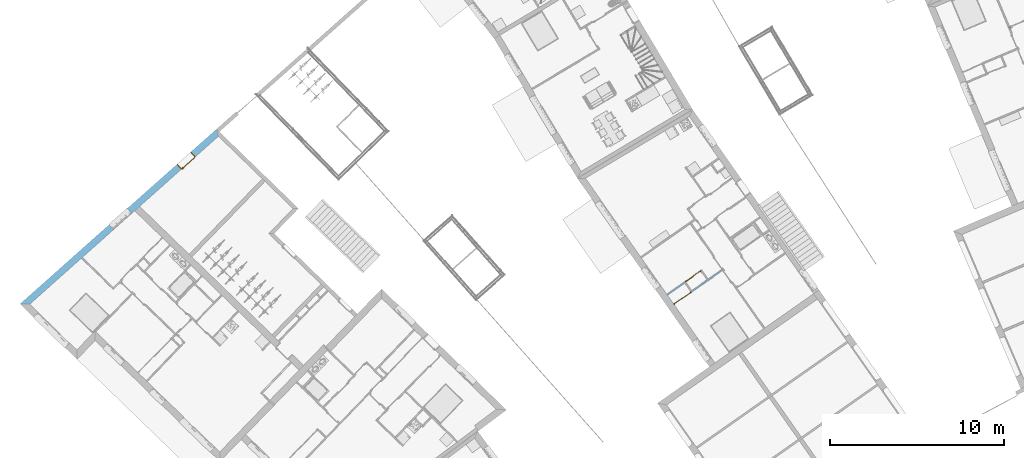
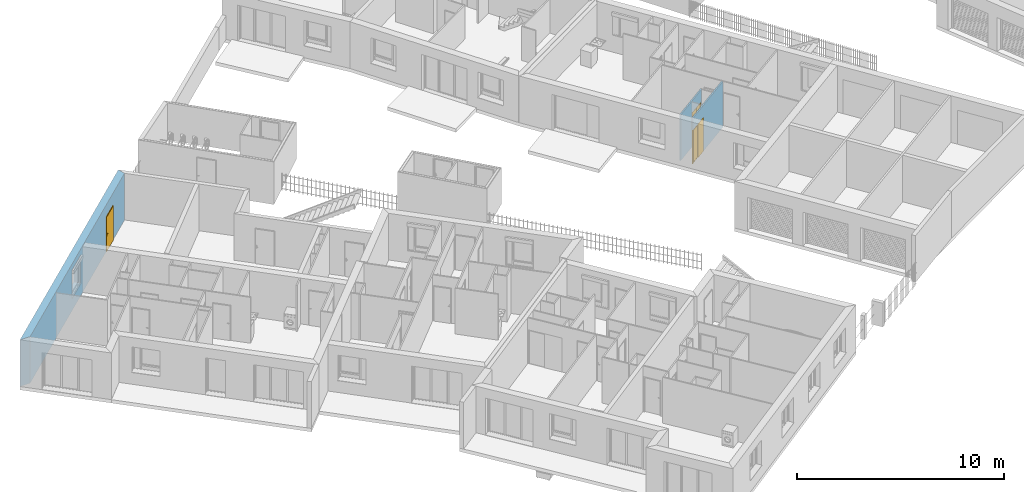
# One storey, part 109 of 195: 3 doors, 4 openings, plus 3 elements that do not belong to this part.
"""IFC2X3 building model written with IfcOpenShell, lengths in metres."""

from ifc_helpers import new_model, entity, si_unit, converted_unit, derived_unit, money_unit, direction, frame, origin_with_axes, origin_2d_with_axis, place, context, subcontext, project, spatial, polyline, rectangle, outline, extrude, open_shell, faceted_brep, surface_model, material, layer, layer_set, layer_usage, type_object, element, fill, save


model = new_model("IFC2X3")

# Units and contexts
model_context = context("Model", 3, precision=1e-05, world=origin_with_axes(), true_north=direction((0.0, 1.0)))
body_context = subcontext(model_context, "Body", "Model", "MODEL_VIEW")
ifc_project = project(units=[si_unit("LENGTHUNIT", "METRE"), si_unit("AREAUNIT", "SQUARE_METRE"), si_unit("VOLUMEUNIT", "CUBIC_METRE"), converted_unit("PLANEANGLEUNIT", "DEGREE", entity("IfcPlaneAngleMeasure", 0.0174532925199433), si_unit("PLANEANGLEUNIT", "RADIAN"), dimensions=[0, 0, 0, 0, 0, 0, 0]), money_unit("CHF"), converted_unit("TIMEUNIT", "Year", entity("IfcTimeMeasure", 31557600.0), si_unit("TIMEUNIT", "SECOND"), dimensions=[0, 0, 1, 0, 0, 0, 0]), si_unit("MASSUNIT", "GRAM", prefix="KILO"), si_unit("THERMODYNAMICTEMPERATUREUNIT", "DEGREE_CELSIUS"), si_unit("LUMINOUSINTENSITYUNIT", "LUMEN"), si_unit("ENERGYUNIT", "JOULE", prefix="MEGA"), derived_unit("THERMALCONDUCTANCEUNIT", [(si_unit("POWERUNIT", "WATT"), 1), (si_unit("LENGTHUNIT", "METRE"), -1), (si_unit("THERMODYNAMICTEMPERATUREUNIT", "KELVIN"), -1)]), derived_unit("SPECIFICHEATCAPACITYUNIT", [(si_unit("ENERGYUNIT", "JOULE"), 1), (si_unit("MASSUNIT", "GRAM", prefix="KILO"), -1), (si_unit("THERMODYNAMICTEMPERATUREUNIT", "KELVIN"), -1)]), derived_unit("MASSDENSITYUNIT", [(si_unit("MASSUNIT", "GRAM", prefix="KILO"), 1), (si_unit("VOLUMEUNIT", "CUBIC_METRE"), -1)])], contexts=[model_context])

# Site, building, storey
site_placement = place(None, origin_with_axes())
site = spatial("IfcSite", under=ifc_project, at=site_placement, Name="Site", CompositionType="ELEMENT")
building_placement = place(site_placement, origin_with_axes())
building = spatial("IfcBuilding", under=site, at=building_placement, Name="Bâtiment", CompositionType="ELEMENT")
storey_placement = place(building_placement, origin_with_axes())
storey = spatial("IfcBuildingStorey", under=building, at=storey_placement, Name="rdc", CompositionType="ELEMENT", Elevation=0.0)

# Wall, opening, door
ifc_material_1 = material(Name="Hachure solide 268963992")
ifc_layer_1 = layer(ifc_material_1, 0.07, ventilated="UNKNOWN")
ifc_layer_set_1 = layer_set([ifc_layer_1], Name="Cloison 70 0826278243")
ifc_layer_usage_1 = layer_usage(ifc_layer_set_1, "AXIS2", "POSITIVE", 0.0)
wall_type_1 = type_object("IfcWallType", Name="Cloison 70 0826278243 70", PredefinedType="NOTDEFINED")
wall_1_placement = place(storey_placement, frame((9550.281326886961, -1060.504089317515, 57.7), z_axis=(0.0, 0.0, 1.0), x_axis=(-0.8187432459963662, -0.5741598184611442, 0.0)))
wall_1 = element("IfcWallStandardCase", 1, at=wall_1_placement, inside=storey, type_object=wall_type_1, material=ifc_layer_usage_1, Name="Mur-149", context=body_context, shape_type="SweptSolid", body=[
    extrude(outline(polyline([(-0.06999999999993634, 0.0), (2.366839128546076, 0.0), (2.366839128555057, 0.07000000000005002), (0.0, 0.07000000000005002), (-0.06999999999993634, 0.0)])), origin_with_axes(), (0.0, 0.0, 1.0), 2.7),
])
opening_1_placement = place(wall_1_placement, frame((0.5401857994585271, 0.0, 0.0), z_axis=(0.0, 0.0, 1.0), x_axis=(1.0, 0.0, 0.0)))
opening_1 = element("IfcOpeningElement", 2, at=opening_1_placement, cuts=wall_1, Name="Por-346", context=body_context, shape_type="SweptSolid", body=[
    extrude(rectangle(XDim=1.080371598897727, YDim=2.0, at=origin_2d_with_axis()), frame((0.0, 0.0, 1.0), z_axis=(0.0, 1.0, 0.0), x_axis=(1.0, 0.0, 0.0)), (0.0, 0.0, -1.0), 0.07),
    extrude(rectangle(XDim=1.080371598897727, YDim=2.0, at=origin_2d_with_axis()), frame((0.0, 0.0, 1.0), z_axis=(0.0, -1.0, 0.0), x_axis=(1.0, 0.0, 0.0)), (0.0, 0.0, -1.0), 0.07),
])
door_style_1 = type_object("IfcDoorStyle", ConstructionType="NOTDEFINED", OperationType="NOTDEFINED", ParameterTakesPrecedence=False, Sizeable=False)
door_1_placement = place(opening_1_placement, frame((0.5401857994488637, 0.0, 0.0), z_axis=(0.0, 0.0, 1.0), x_axis=(-1.0, 0.0, 0.0)))
door_1 = element("IfcDoor", 3, at=door_1_placement, inside=storey, type_object=door_style_1, Name="Por-346", OverallHeight=2.0, OverallWidth=1.08037, context=body_context, shape_type="SurfaceModel", body=[
    faceted_brep([(1.080371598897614, 0.0, 0.0), (1.04037159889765, 0.0, 0.0), (1.04037159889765, 0.0, 1.960000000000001), (0.03999999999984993, 0.0, 1.960000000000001), (0.03999999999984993, 0.0, 0.0), (0.0, 0.0, 0.0), (0.0, 0.0, 2.0), (1.080371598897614, 0.0, 2.0), (1.080371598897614, -0.05000000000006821, 0.0), (1.040371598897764, -0.05000000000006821, 0.0), (1.04037159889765, -0.04000000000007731, 0.0), (1.04037159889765, -0.04000000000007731, 1.960000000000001), (0.03999999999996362, -0.03999999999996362, 1.960000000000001), (0.03999999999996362, -0.03999999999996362, 0.0), (0.03999999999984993, -0.04999999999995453, 0.0), (0.0, -0.05000000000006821, 0.0), (0.0, -0.05000000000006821, 2.0), (1.080371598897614, -0.05000000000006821, 2.0), (0.03999999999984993, -0.04999999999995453, 1.960000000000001), (1.040371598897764, -0.05000000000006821, 1.960000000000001)], [[[0, 1, 2, 3, 4, 5, 6, 7]], [[0, 8, 9, 10, 1]], [[1, 10, 11, 2]], [[2, 11, 12, 3]], [[3, 12, 13, 4]], [[5, 4, 13, 14, 15]], [[16, 6, 5, 15]], [[17, 7, 6, 16]], [[8, 0, 7, 17]], [[9, 8, 17, 16, 15, 14, 18, 19]], [[10, 9, 19, 11]], [[11, 19, 18, 12]], [[12, 18, 14, 13]]]),
    faceted_brep([(0.03999999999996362, -0.01999999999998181, 0.0), (0.5551857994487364, -0.01999999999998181, 0.0), (0.5551857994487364, -0.03999999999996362, 0.0), (0.03999999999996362, -0.03999999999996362, 0.0), (0.03999999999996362, -0.01999999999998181, 1.960000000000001), (0.5551857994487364, -0.01999999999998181, 1.960000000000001), (0.06999999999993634, -0.0200000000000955, 0.03000000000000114), (0.5251857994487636, -0.0200000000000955, 0.03000000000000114), (0.5251857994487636, -0.0200000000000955, 1.93), (0.06999999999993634, -0.0200000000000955, 1.93), (0.5551857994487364, -0.03999999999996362, 1.960000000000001), (0.03999999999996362, -0.03999999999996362, 1.960000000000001), (0.07000000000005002, -0.04000000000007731, 0.03000000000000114), (0.07000000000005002, -0.04000000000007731, 1.93), (0.5251857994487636, -0.04000000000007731, 1.93), (0.5251857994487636, -0.04000000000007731, 0.03000000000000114)], [[[0, 1, 2, 3]], [[0, 4, 5, 1], [6, 7, 8, 9]], [[1, 5, 10, 2]], [[3, 2, 10, 11], [12, 13, 14, 15]], [[4, 0, 3, 11]], [[5, 4, 11, 10]], [[7, 6, 12, 15]], [[8, 7, 15, 14]], [[9, 8, 14, 13]], [[6, 9, 13, 12]]]),
    surface_model("IfcShellBasedSurfaceModel", [(0.06999999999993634, -0.0300000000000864, 0.03000000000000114), (0.5251857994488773, -0.0300000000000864, 0.03000000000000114), (0.5251857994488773, -0.0300000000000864, 1.93), (0.06999999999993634, -0.0300000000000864, 1.93)], [open_shell([[[0, 1, 2, 3]]])]),
    faceted_brep([(0.5251857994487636, 0.0, 0.0), (1.04037159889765, 0.0, 0.0), (1.04037159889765, -0.0200000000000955, 0.0), (0.5251857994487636, -0.0200000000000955, 0.0), (0.5251857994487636, 0.0, 1.960000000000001), (1.04037159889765, 0.0, 1.960000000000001), (1.04037159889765, -0.0200000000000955, 1.960000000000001), (0.5251857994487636, -0.0200000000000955, 1.960000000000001)], [[[0, 1, 2, 3]], [[0, 4, 5, 1]], [[1, 5, 6, 2]], [[3, 2, 6, 7]], [[4, 0, 3, 7]], [[5, 4, 7, 6]]]),
])
fill(opening_1, door_1)

ifc_layer_usage_2 = layer_usage(ifc_layer_set_1, "AXIS2", "POSITIVE", 0.0)
wall_2_placement = place(storey_placement, frame((9551.575044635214, -1060.390735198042, 57.7), z_axis=(0.0, 0.0, 1.0), x_axis=(-0.8187432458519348, -0.574159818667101, 0.0)))
wall_2 = element("IfcWallStandardCase", 4, at=wall_2_placement, inside=storey, type_object=wall_type_1, material=ifc_layer_usage_2, Name="Mur-149", context=body_context, shape_type="SweptSolid", body=[
    extrude(outline(polyline([(0.06999999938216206, 0.0), (3.491145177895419, 0.0), (3.491145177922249, 0.07000000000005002), (0.06999999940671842, 0.07000000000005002), (0.06999999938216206, 0.0)])), origin_with_axes(), (0.0, 0.0, 1.0), 2.7),
])
opening_2_placement = place(wall_2_placement, frame((2.882911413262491, 0.0, 0.0), z_axis=(0.0, 0.0, 1.0), x_axis=(1.0, 0.0, 0.0)))
opening_2 = element("IfcOpeningElement", 5, at=opening_2_placement, cuts=wall_2, Name="Por-345", context=body_context, shape_type="SweptSolid", body=[
    extrude(rectangle(XDim=1.216467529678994, YDim=2.0, at=origin_2d_with_axis()), frame((0.0, 0.06999999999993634, 1.0), z_axis=(0.0, -1.0, 0.0), x_axis=(1.0, 0.0, 0.0)), (0.0, 0.0, -1.0), 0.07),
    extrude(rectangle(XDim=1.216467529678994, YDim=2.0, at=origin_2d_with_axis()), frame((0.0, 0.06999999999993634, 1.0), z_axis=(0.0, 1.0, 0.0), x_axis=(1.0, 0.0, 0.0)), (0.0, 0.0, -1.0), 0.07),
])
door_2_placement = place(opening_2_placement, frame((-0.6082337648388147, 0.0, 0.0), z_axis=(0.0, 0.0, 1.0), x_axis=(1.0, 0.0, 0.0)))
door_2 = element("IfcDoor", 6, at=door_2_placement, inside=storey, type_object=door_style_1, Name="Por-345", OverallHeight=2.0, OverallWidth=1.21647, context=body_context, shape_type="SurfaceModel", body=[
    faceted_brep([(0.0, 0.07000000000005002, 0.0), (0.0, 0.07000000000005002, 2.0), (1.21646752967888, 0.07000000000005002, 2.0), (1.21646752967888, 0.07000000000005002, 0.0), (1.176467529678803, 0.07000000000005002, 0.0), (1.176467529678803, 0.07000000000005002, 1.960000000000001), (0.03999999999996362, 0.07000000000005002, 1.960000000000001), (0.03999999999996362, 0.07000000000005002, 0.0), (0.0, 0.0200000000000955, 0.0), (0.0, 0.0200000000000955, 2.0), (1.21646752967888, 0.01999999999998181, 2.0), (1.21646752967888, 0.01999999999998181, 0.0), (1.176467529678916, 0.0200000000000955, 0.0), (1.176467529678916, 0.02999999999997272, 0.0), (1.176467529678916, 0.02999999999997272, 1.960000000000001), (0.03999999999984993, 0.0300000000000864, 1.960000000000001), (0.03999999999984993, 0.0300000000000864, 0.0), (0.03999999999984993, 0.0200000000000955, 0.0), (0.03999999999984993, 0.0200000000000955, 1.960000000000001), (1.176467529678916, 0.0200000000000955, 1.960000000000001)], [[[0, 1, 2, 3, 4, 5, 6, 7]], [[8, 9, 1, 0]], [[9, 10, 2, 1]], [[10, 11, 3, 2]], [[3, 11, 12, 13, 4]], [[5, 4, 13, 14]], [[6, 5, 14, 15]], [[7, 6, 15, 16]], [[0, 7, 16, 17, 8]], [[17, 18, 19, 12, 11, 10, 9, 8]], [[14, 13, 12, 19]], [[15, 14, 19, 18]], [[16, 15, 18, 17]]]),
    faceted_brep([(1.176467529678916, 0.05000000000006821, 0.0), (1.176467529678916, 0.02999999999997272, 0.0), (0.5932337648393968, 0.0300000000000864, 0.0), (0.5932337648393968, 0.05000000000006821, 0.0), (1.176467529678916, 0.05000000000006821, 1.960000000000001), (1.176467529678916, 0.02999999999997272, 1.960000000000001), (0.5932337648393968, 0.0300000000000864, 1.960000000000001), (1.14646752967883, 0.0300000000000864, 0.03000000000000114), (0.6232337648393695, 0.0300000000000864, 0.03000000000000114), (0.6232337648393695, 0.0300000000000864, 1.93), (1.14646752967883, 0.0300000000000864, 1.93), (0.5932337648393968, 0.05000000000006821, 1.960000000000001), (1.14646752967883, 0.05000000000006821, 0.03000000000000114), (1.14646752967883, 0.05000000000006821, 1.93), (0.6232337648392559, 0.05000000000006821, 1.93), (0.6232337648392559, 0.05000000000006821, 0.03000000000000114)], [[[0, 1, 2, 3]], [[4, 5, 1, 0]], [[1, 5, 6, 2], [7, 8, 9, 10]], [[3, 2, 6, 11]], [[0, 3, 11, 4], [12, 13, 14, 15]], [[11, 6, 5, 4]], [[15, 8, 7, 12]], [[14, 9, 8, 15]], [[13, 10, 9, 14]], [[12, 7, 10, 13]]]),
    surface_model("IfcShellBasedSurfaceModel", [(1.14646752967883, 0.04000000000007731, 0.03000000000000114), (1.14646752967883, 0.04000000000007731, 1.93), (0.6232337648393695, 0.03999999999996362, 1.93), (0.6232337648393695, 0.03999999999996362, 0.03000000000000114)], [open_shell([[[0, 1, 2, 3]]])]),
    faceted_brep([(0.6232337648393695, 0.07000000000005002, 0.0), (0.6232337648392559, 0.05000000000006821, 0.0), (0.03999999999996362, 0.05000000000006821, 0.0), (0.03999999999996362, 0.07000000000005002, 0.0), (0.6232337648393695, 0.07000000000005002, 1.960000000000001), (0.6232337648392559, 0.05000000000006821, 1.960000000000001), (0.03999999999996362, 0.05000000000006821, 1.960000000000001), (0.03999999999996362, 0.07000000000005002, 1.960000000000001)], [[[0, 1, 2, 3]], [[4, 5, 1, 0]], [[1, 5, 6, 2]], [[3, 2, 6, 7]], [[0, 3, 7, 4]], [[7, 6, 5, 4]]]),
])
fill(opening_2, door_2)

# Wall, openings, door
ifc_material_2 = material(Name="Parpaing 312445824")
ifc_layer_2 = layer(ifc_material_2, 0.22, ventilated="UNKNOWN")
ifc_material_3 = material(Name="Isolant styromousse 301821074")
ifc_layer_3 = layer(ifc_material_3, 0.16, ventilated="UNKNOWN")
ifc_layer_set_2 = layer_set([ifc_layer_2, ifc_layer_3], Name="isol int 22+16 0836643197")
ifc_layer_usage_3 = layer_usage(ifc_layer_set_2, "AXIS2", "POSITIVE", 0.0)
wall_type_2 = type_object("IfcWallType", Name="isol int 22+16 0836643197 380", PredefinedType="NOTDEFINED")
wall_3_placement = place(storey_placement, frame((9522.528090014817, -1052.392600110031, 57.7), z_axis=(0.0, 0.0, 1.0), x_axis=(-0.7470609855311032, -0.6647555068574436, 0.0)))
wall_3 = element("IfcWallStandardCase", 7, at=wall_3_placement, inside=storey, type_object=wall_type_2, material=ifc_layer_usage_3, Name="Mur-116", context=body_context, shape_type="SweptSolid", body=[
    extrude(outline(polyline([(0.0, 0.0), (15.08442723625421, 0.0), (14.67520820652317, 0.3799999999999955), (0.1924280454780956, 0.3799999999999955), (0.0, 0.0)])), origin_with_axes(), (0.0, 0.0, 1.0), 2.75),
])
opening_3_placement = place(wall_3_placement, frame((7.542145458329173, 0.0, 0.7000000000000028), z_axis=(0.0, 0.0, 1.0), x_axis=(1.0, 0.0, 0.0)))
element("IfcOpeningElement", 8, at=opening_3_placement, cuts=wall_3, Name="Fen-045", context=body_context, shape_type="Brep", body=[
    faceted_brep([(-0.7000000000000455, 0.2999999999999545, 1.5), (-0.7000000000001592, 0.4800000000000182, 1.5), (-0.7000000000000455, 7.872121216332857, 1.5), (-0.7000000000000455, 7.872121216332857, 0.0), (-0.7000000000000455, 0.2999999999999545, 0.0), (-0.7000000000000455, 0.2200000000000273, 1.5), (-0.7000000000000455, 0.2200000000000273, 1.700000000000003), (-0.7000000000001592, 0.4800000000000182, 1.700000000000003), (0.6999999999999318, 0.4800000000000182, 1.5), (0.6999999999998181, 7.872121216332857, 1.5), (0.6999999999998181, 7.872121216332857, 0.0), (0.6999999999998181, 0.3000000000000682, 0.0), (-0.7000000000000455, -7.492121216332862, 0.0), (-0.7000000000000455, -7.492121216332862, 1.5), (0.6999999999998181, 0.2200000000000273, 1.5), (0.6999999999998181, 0.2200000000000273, 1.700000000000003), (0.6999999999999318, 0.4800000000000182, 1.700000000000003), (0.6999999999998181, 0.3000000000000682, 1.5), (0.6999999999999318, -7.492121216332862, 0.0), (0.6999999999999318, -7.492121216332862, 1.5)], [[[0, 1, 2, 3, 4]], [[1, 0, 5, 6, 7]], [[1, 8, 9, 2]], [[9, 10, 3, 2]], [[11, 4, 3, 10]], [[5, 0, 4, 12, 13]], [[5, 14, 15, 6]], [[7, 6, 15, 16]], [[8, 1, 7, 16]], [[8, 17, 11, 10, 9]], [[4, 11, 18, 12]], [[13, 12, 18, 19]], [[14, 5, 13, 19]], [[17, 8, 16, 15, 14]], [[17, 14, 19, 18, 11]]]),
])
opening_4_placement = place(wall_3_placement, frame((2.504253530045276, 0.0, 0.0), z_axis=(0.0, 0.0, 1.0), x_axis=(1.0, 0.0, 0.0)))
opening_4 = element("IfcOpeningElement", 9, at=opening_4_placement, cuts=wall_3, Name="Por-300", context=body_context, shape_type="SweptSolid", body=[
    extrude(rectangle(XDim=1.109999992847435, YDim=2.079999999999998, at=origin_2d_with_axis()), frame((3.576360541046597e-09, -0.3799999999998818, 1.039999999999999), z_axis=(0.0, -1.0, 0.0), x_axis=(-1.0, 0.0, 0.0)), (0.0, 0.0, -1.0), 0.76),
])
door_style_2 = type_object("IfcDoorStyle", Name="Porte_1v", ConstructionType="NOTDEFINED", OperationType="NOTDEFINED", ParameterTakesPrecedence=False, Sizeable=False)
door_3_placement = place(opening_4_placement, frame((-0.5150000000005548, 0.0, 0.0), z_axis=(0.0, 0.0, 1.0), x_axis=(1.0, 0.0, 0.0)))
door_3 = element("IfcDoor", 10, at=door_3_placement, inside=storey, type_object=door_style_2, Name="Por-300", OverallHeight=2.04, OverallWidth=1.03, context=body_context, shape_type="Brep", body=[
    faceted_brep([(-0.03999999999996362, 0.3800000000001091, 0.0), (-0.03999999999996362, 0.3800000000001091, 2.079999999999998), (1.07000000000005, 0.3799999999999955, 2.079999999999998), (1.07000000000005, 0.3799999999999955, 0.0), (1.0300000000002, 0.3799999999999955, 0.0), (1.0300000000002, 0.3799999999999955, 2.039999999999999), (0.0, 0.3799999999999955, 2.039999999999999), (0.0, 0.3799999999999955, 0.0), (-0.03999999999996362, 0.0, 0.0), (-0.03999999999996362, 0.0, 2.079999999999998), (1.07000000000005, 0.0, 2.079999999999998), (1.07000000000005, 0.0, 0.0), (1.014999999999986, 0.0, 0.0), (1.014999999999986, 0.3650000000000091, 0.0), (1.030000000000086, 0.3650000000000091, 0.0), (1.030000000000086, 0.3650000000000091, 2.039999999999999), (0.0, 0.3650000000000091, 2.039999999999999), (0.0, 0.3650000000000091, 0.0), (0.01500000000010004, 0.3650000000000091, 0.0), (0.01500000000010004, 0.0, 0.0), (0.01500000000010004, 0.0, 2.024999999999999), (1.014999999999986, 0.0, 2.024999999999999), (1.014999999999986, 0.3650000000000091, 2.024999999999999), (0.01500000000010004, 0.3650000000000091, 2.024999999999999)], [[[0, 1, 2, 3, 4, 5, 6, 7]], [[8, 9, 1, 0]], [[9, 10, 2, 1]], [[10, 11, 3, 2]], [[3, 11, 12, 13, 14, 4]], [[5, 4, 14, 15]], [[6, 5, 15, 16]], [[7, 6, 16, 17]], [[0, 7, 17, 18, 19, 8]], [[19, 20, 21, 12, 11, 10, 9, 8]], [[22, 13, 12, 21]], [[17, 16, 15, 14, 13, 22, 23, 18]], [[18, 23, 20, 19]], [[23, 22, 21, 20]]]),
    faceted_brep([(0.9650000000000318, 0.3650000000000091, 0.8999999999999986), (0.9650000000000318, 0.3650000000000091, 1.100000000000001), (1.005000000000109, 0.3650000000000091, 1.100000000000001), (1.005000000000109, 0.3650000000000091, 0.8999999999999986), (0.9650000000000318, 0.3550000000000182, 0.8999999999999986), (0.9650000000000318, 0.3550000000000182, 1.100000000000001), (1.005000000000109, 0.3549999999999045, 1.100000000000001), (1.005000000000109, 0.3549999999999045, 0.8999999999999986)], [[[0, 1, 2, 3]], [[0, 4, 5, 1]], [[1, 5, 6, 2]], [[2, 6, 7, 3]], [[3, 7, 4, 0]], [[7, 6, 5, 4]]]),
    faceted_brep([(0.8950000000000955, 0.3549999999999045, 1.0), (0.8950000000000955, 0.3549999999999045, 1.020000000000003), (0.9950000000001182, 0.3549999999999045, 1.020000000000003), (0.9950000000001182, 0.3549999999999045, 1.0), (0.8950000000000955, 0.3350000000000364, 1.0), (0.8950000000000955, 0.3350000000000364, 1.020000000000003), (0.9950000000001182, 0.3349999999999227, 1.020000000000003), (0.9950000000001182, 0.3349999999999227, 1.0)], [[[0, 1, 2, 3]], [[0, 4, 5, 1]], [[1, 5, 6, 2]], [[2, 6, 7, 3]], [[3, 7, 4, 0]], [[7, 6, 5, 4]]]),
    faceted_brep([(0.9650000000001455, 0.4149999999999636, 0.8999999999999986), (0.9650000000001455, 0.4149999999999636, 1.100000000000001), (1.005000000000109, 0.4149999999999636, 1.100000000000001), (1.005000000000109, 0.4149999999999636, 0.8999999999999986), (0.9650000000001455, 0.4049999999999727, 0.8999999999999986), (0.9650000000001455, 0.4049999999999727, 1.100000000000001), (1.004999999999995, 0.4049999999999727, 1.100000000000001), (1.004999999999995, 0.4049999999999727, 0.8999999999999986)], [[[0, 1, 2, 3]], [[0, 4, 5, 1]], [[1, 5, 6, 2]], [[2, 6, 7, 3]], [[3, 7, 4, 0]], [[7, 6, 5, 4]]]),
    faceted_brep([(0.8950000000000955, 0.4349999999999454, 1.0), (0.8950000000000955, 0.4349999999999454, 1.020000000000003), (0.9950000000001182, 0.4350000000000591, 1.020000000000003), (0.9950000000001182, 0.4350000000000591, 1.0), (0.8950000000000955, 0.4149999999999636, 1.0), (0.8950000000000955, 0.4149999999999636, 1.020000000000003), (0.9950000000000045, 0.4150000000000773, 1.020000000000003), (0.9950000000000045, 0.4150000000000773, 1.0)], [[[0, 1, 2, 3]], [[0, 4, 5, 1]], [[1, 5, 6, 2]], [[2, 6, 7, 3]], [[3, 7, 4, 0]], [[7, 6, 5, 4]]]),
    faceted_brep([(1.029999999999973, 0.4049999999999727, 0.0), (1.030000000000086, 0.3650000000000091, 0.0), (0.0, 0.3650000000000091, 0.0), (0.0, 0.4049999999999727, 0.0), (1.029999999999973, 0.4049999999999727, 2.039999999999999), (1.030000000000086, 0.3650000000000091, 2.039999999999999), (0.0, 0.3650000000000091, 2.039999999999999), (0.0, 0.4049999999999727, 2.039999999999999)], [[[0, 1, 2, 3]], [[4, 5, 1, 0]], [[1, 5, 6, 2]], [[3, 2, 6, 7]], [[0, 3, 7, 4]], [[7, 6, 5, 4]]]),
])
fill(opening_4, door_3)

save(model, "model.ifc")
